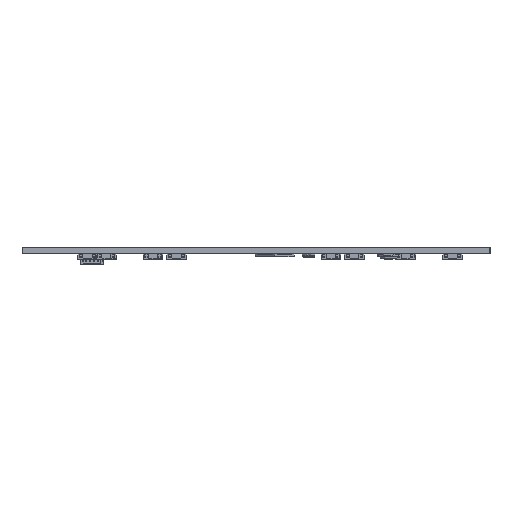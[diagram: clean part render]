
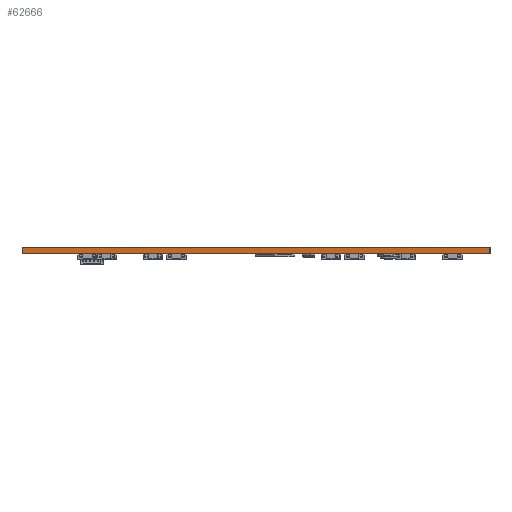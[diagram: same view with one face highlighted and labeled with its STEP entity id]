
A CAD part, left-side view. The second image highlights one B-rep face of the part: STEP entity #62666.
In plain terms, the highlighted planar face has unit normal (-1, 0, 0).
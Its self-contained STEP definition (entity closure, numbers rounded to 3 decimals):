
#62485 = PLANE('',#62486);
#62486 = AXIS2_PLACEMENT_3D('',#62487,#62488,#62489);
#62487 = CARTESIAN_POINT('',(328.613,-14.288,0.));
#62488 = DIRECTION('',(0.,-1.,0.));
#62489 = DIRECTION('',(-1.,0.,0.));
#62510 = VERTEX_POINT('',#62511);
#62511 = CARTESIAN_POINT('',(19.05,-14.288,1.6));
#62525 = PLANE('',#62526);
#62526 = AXIS2_PLACEMENT_3D('',#62527,#62528,#62529);
#62527 = CARTESIAN_POINT('',(173.831,-73.819,1.6));
#62528 = DIRECTION('',(0.,0.,1.));
#62529 = DIRECTION('',(1.,0.,-0.));
#62537 = EDGE_CURVE('',#62538,#62510,#62540,.T.);
#62538 = VERTEX_POINT('',#62539);
#62539 = CARTESIAN_POINT('',(19.05,-14.288,0.));
#62540 = SURFACE_CURVE('',#62541,(#62545,#62552),.PCURVE_S1.);
#62541 = LINE('',#62542,#62543);
#62542 = CARTESIAN_POINT('',(19.05,-14.288,0.));
#62543 = VECTOR('',#62544,1.);
#62544 = DIRECTION('',(0.,0.,1.));
#62545 = PCURVE('',#62485,#62546);
#62546 = DEFINITIONAL_REPRESENTATION('',(#62547),#62551);
#62547 = LINE('',#62548,#62549);
#62548 = CARTESIAN_POINT('',(309.563,0.));
#62549 = VECTOR('',#62550,1.);
#62550 = DIRECTION('',(0.,-1.));
#62551 = ( GEOMETRIC_REPRESENTATION_CONTEXT(2) 
PARAMETRIC_REPRESENTATION_CONTEXT() REPRESENTATION_CONTEXT('2D SPACE',''
  ) );
#62552 = PCURVE('',#62553,#62558);
#62553 = PLANE('',#62554);
#62554 = AXIS2_PLACEMENT_3D('',#62555,#62556,#62557);
#62555 = CARTESIAN_POINT('',(19.05,-14.288,0.));
#62556 = DIRECTION('',(1.,0.,-0.));
#62557 = DIRECTION('',(0.,-1.,0.));
#62558 = DEFINITIONAL_REPRESENTATION('',(#62559),#62563);
#62559 = LINE('',#62560,#62561);
#62560 = CARTESIAN_POINT('',(0.,0.));
#62561 = VECTOR('',#62562,1.);
#62562 = DIRECTION('',(0.,-1.));
#62563 = ( GEOMETRIC_REPRESENTATION_CONTEXT(2) 
PARAMETRIC_REPRESENTATION_CONTEXT() REPRESENTATION_CONTEXT('2D SPACE',''
  ) );
#62579 = PLANE('',#62580);
#62580 = AXIS2_PLACEMENT_3D('',#62581,#62582,#62583);
#62581 = CARTESIAN_POINT('',(173.831,-73.819,0.));
#62582 = DIRECTION('',(0.,0.,1.));
#62583 = DIRECTION('',(1.,0.,-0.));
#62612 = PLANE('',#62613);
#62613 = AXIS2_PLACEMENT_3D('',#62614,#62615,#62616);
#62614 = CARTESIAN_POINT('',(19.05,-133.35,0.));
#62615 = DIRECTION('',(0.,1.,0.));
#62616 = DIRECTION('',(1.,0.,0.));
#62666 = ADVANCED_FACE('',(#62667),#62553,.F.);
#62667 = FACE_BOUND('',#62668,.F.);
#62668 = EDGE_LOOP('',(#62669,#62670,#62693,#62716));
#62669 = ORIENTED_EDGE('',*,*,#62537,.T.);
#62670 = ORIENTED_EDGE('',*,*,#62671,.T.);
#62671 = EDGE_CURVE('',#62510,#62672,#62674,.T.);
#62672 = VERTEX_POINT('',#62673);
#62673 = CARTESIAN_POINT('',(19.05,-133.35,1.6));
#62674 = SURFACE_CURVE('',#62675,(#62679,#62686),.PCURVE_S1.);
#62675 = LINE('',#62676,#62677);
#62676 = CARTESIAN_POINT('',(19.05,-14.288,1.6));
#62677 = VECTOR('',#62678,1.);
#62678 = DIRECTION('',(0.,-1.,0.));
#62679 = PCURVE('',#62553,#62680);
#62680 = DEFINITIONAL_REPRESENTATION('',(#62681),#62685);
#62681 = LINE('',#62682,#62683);
#62682 = CARTESIAN_POINT('',(0.,-1.6));
#62683 = VECTOR('',#62684,1.);
#62684 = DIRECTION('',(1.,0.));
#62685 = ( GEOMETRIC_REPRESENTATION_CONTEXT(2) 
PARAMETRIC_REPRESENTATION_CONTEXT() REPRESENTATION_CONTEXT('2D SPACE',''
  ) );
#62686 = PCURVE('',#62525,#62687);
#62687 = DEFINITIONAL_REPRESENTATION('',(#62688),#62692);
#62688 = LINE('',#62689,#62690);
#62689 = CARTESIAN_POINT('',(-154.781,59.531));
#62690 = VECTOR('',#62691,1.);
#62691 = DIRECTION('',(0.,-1.));
#62692 = ( GEOMETRIC_REPRESENTATION_CONTEXT(2) 
PARAMETRIC_REPRESENTATION_CONTEXT() REPRESENTATION_CONTEXT('2D SPACE',''
  ) );
#62693 = ORIENTED_EDGE('',*,*,#62694,.F.);
#62694 = EDGE_CURVE('',#62695,#62672,#62697,.T.);
#62695 = VERTEX_POINT('',#62696);
#62696 = CARTESIAN_POINT('',(19.05,-133.35,0.));
#62697 = SURFACE_CURVE('',#62698,(#62702,#62709),.PCURVE_S1.);
#62698 = LINE('',#62699,#62700);
#62699 = CARTESIAN_POINT('',(19.05,-133.35,0.));
#62700 = VECTOR('',#62701,1.);
#62701 = DIRECTION('',(0.,0.,1.));
#62702 = PCURVE('',#62553,#62703);
#62703 = DEFINITIONAL_REPRESENTATION('',(#62704),#62708);
#62704 = LINE('',#62705,#62706);
#62705 = CARTESIAN_POINT('',(119.063,0.));
#62706 = VECTOR('',#62707,1.);
#62707 = DIRECTION('',(0.,-1.));
#62708 = ( GEOMETRIC_REPRESENTATION_CONTEXT(2) 
PARAMETRIC_REPRESENTATION_CONTEXT() REPRESENTATION_CONTEXT('2D SPACE',''
  ) );
#62709 = PCURVE('',#62612,#62710);
#62710 = DEFINITIONAL_REPRESENTATION('',(#62711),#62715);
#62711 = LINE('',#62712,#62713);
#62712 = CARTESIAN_POINT('',(0.,0.));
#62713 = VECTOR('',#62714,1.);
#62714 = DIRECTION('',(0.,-1.));
#62715 = ( GEOMETRIC_REPRESENTATION_CONTEXT(2) 
PARAMETRIC_REPRESENTATION_CONTEXT() REPRESENTATION_CONTEXT('2D SPACE',''
  ) );
#62716 = ORIENTED_EDGE('',*,*,#62717,.F.);
#62717 = EDGE_CURVE('',#62538,#62695,#62718,.T.);
#62718 = SURFACE_CURVE('',#62719,(#62723,#62730),.PCURVE_S1.);
#62719 = LINE('',#62720,#62721);
#62720 = CARTESIAN_POINT('',(19.05,-14.288,0.));
#62721 = VECTOR('',#62722,1.);
#62722 = DIRECTION('',(0.,-1.,0.));
#62723 = PCURVE('',#62553,#62724);
#62724 = DEFINITIONAL_REPRESENTATION('',(#62725),#62729);
#62725 = LINE('',#62726,#62727);
#62726 = CARTESIAN_POINT('',(0.,0.));
#62727 = VECTOR('',#62728,1.);
#62728 = DIRECTION('',(1.,0.));
#62729 = ( GEOMETRIC_REPRESENTATION_CONTEXT(2) 
PARAMETRIC_REPRESENTATION_CONTEXT() REPRESENTATION_CONTEXT('2D SPACE',''
  ) );
#62730 = PCURVE('',#62579,#62731);
#62731 = DEFINITIONAL_REPRESENTATION('',(#62732),#62736);
#62732 = LINE('',#62733,#62734);
#62733 = CARTESIAN_POINT('',(-154.781,59.531));
#62734 = VECTOR('',#62735,1.);
#62735 = DIRECTION('',(0.,-1.));
#62736 = ( GEOMETRIC_REPRESENTATION_CONTEXT(2) 
PARAMETRIC_REPRESENTATION_CONTEXT() REPRESENTATION_CONTEXT('2D SPACE',''
  ) );
